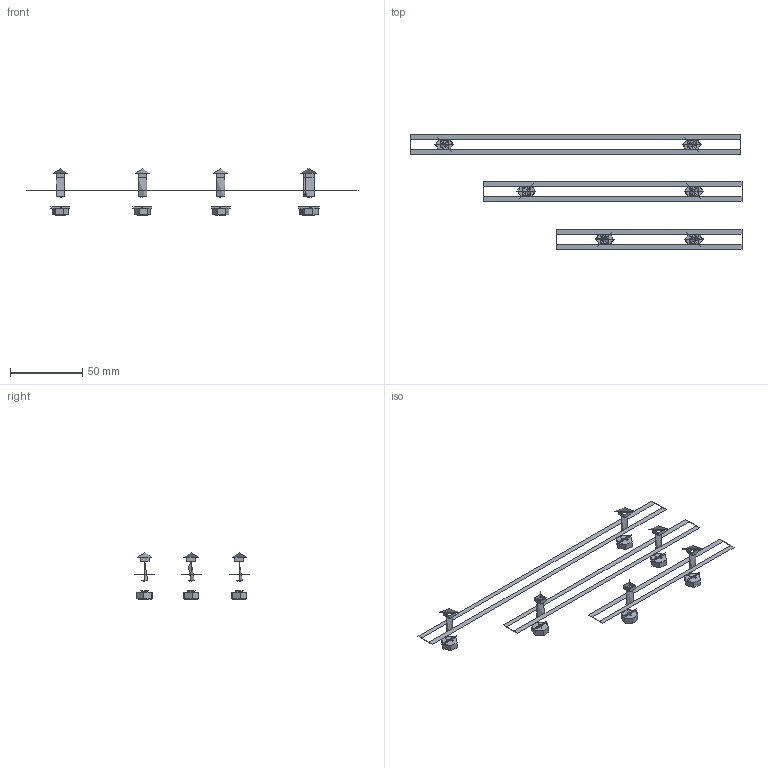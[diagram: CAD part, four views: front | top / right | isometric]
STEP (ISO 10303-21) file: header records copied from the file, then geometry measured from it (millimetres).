
FILE_DESCRIPTION(/* description */ (''),/* implementation_level */ '2;1');
FILE_NAME(/* name */ 'TSM',/* time_stamp */ '2012-11-29T22:23:10+01:00',/* author */ (''),/* organization */ (''),/* preprocessor_version */ 'ST-DEVELOPER v10',/* originating_system */ '',/* authorisation */ '');
FILE_SCHEMA (('AUTOMOTIVE_DESIGN_CC2'));
Length unit declared in the file: millimetre
Products named in the file (1): 1
Bounding box: 229 x 79.26 x 32.13 mm (x, y, z)
Surface area: 19941.5 mm2 (no closed solid volume)
Topology: 0 solids, 204 shells, 294 faces, 1206 edges, 1152 vertices
Faces by surface type: bspline 216, plane 78
Entity records: 29859 total; most frequent: CARTESIAN_POINT 21975, ORIENTED_EDGE 1218, EDGE_CURVE 1038, VERTEX_POINT 870, B_SPLINE_CURVE_WITH_KNOTS 870, COLOUR_RGB 354, PRESENTATION_STYLE_ASSIGNMENT 354, STYLED_ITEM 354
